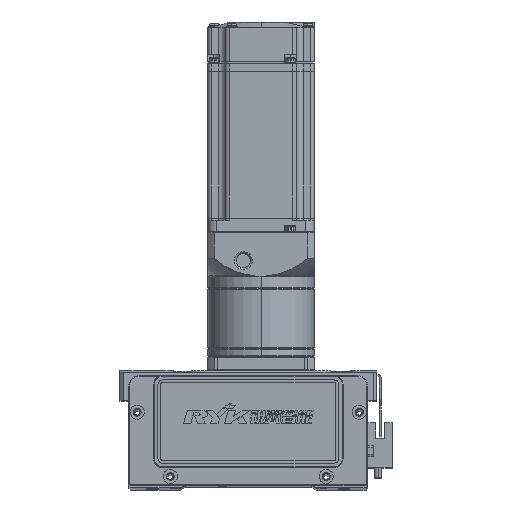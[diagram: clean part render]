
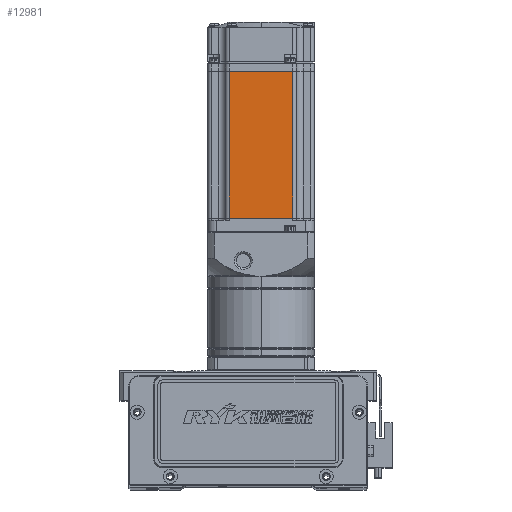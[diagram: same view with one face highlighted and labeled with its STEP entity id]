
A CAD part, top view. The second image highlights one B-rep face of the part: STEP entity #12981.
In plain terms, the highlighted planar face has unit normal (0, 0, 1).
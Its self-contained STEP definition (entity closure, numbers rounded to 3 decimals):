
#710 = VERTEX_POINT ( 'NONE', #28953 ) ;
#1090 = VERTEX_POINT ( 'NONE', #57534 ) ;
#2176 = VECTOR ( 'NONE', #58890, 1000. ) ;
#3819 = VERTEX_POINT ( 'NONE', #23769 ) ;
#6760 = LINE ( 'NONE', #21956, #12202 ) ;
#7178 = DIRECTION ( 'NONE',  ( 0., 0., 1. ) ) ;
#7392 = PLANE ( 'NONE',  #20274 ) ;
#10632 = ORIENTED_EDGE ( 'NONE', *, *, #11657, .T. ) ;
#11657 = EDGE_CURVE ( 'NONE', #710, #1090, #59503, .T. ) ;
#12202 = VECTOR ( 'NONE', #36523, 1000. ) ;
#12781 = EDGE_CURVE ( 'NONE', #33176, #3819, #15835, .T. ) ;
#12981 = ADVANCED_FACE ( 'NONE', ( #53944 ), #7392, .T. ) ;
#15835 = LINE ( 'NONE', #43916, #43834 ) ;
#20274 = AXIS2_PLACEMENT_3D ( 'NONE', #42119, #7178, #51486 ) ;
#21104 = ORIENTED_EDGE ( 'NONE', *, *, #12781, .F. ) ;
#21471 = EDGE_LOOP ( 'NONE', ( #21104, #61481, #10632, #54291 ) ) ;
#21956 = CARTESIAN_POINT ( 'NONE',  ( -6.5, 18., 30. ) ) ;
#22305 = CARTESIAN_POINT ( 'NONE',  ( -7.75, 18., 30. ) ) ;
#22619 = CARTESIAN_POINT ( 'NONE',  ( -90.45, 0., 30. ) ) ;
#23769 = CARTESIAN_POINT ( 'NONE',  ( -7.75, -18., 30. ) ) ;
#28953 = CARTESIAN_POINT ( 'NONE',  ( -90.45, 18., 30. ) ) ;
#31611 = EDGE_CURVE ( 'NONE', #33176, #710, #6760, .T. ) ;
#33176 = VERTEX_POINT ( 'NONE', #22305 ) ;
#36523 = DIRECTION ( 'NONE',  ( -1., 0., 0. ) ) ;
#42119 = CARTESIAN_POINT ( 'NONE',  ( -6.5, -25., 30. ) ) ;
#43280 = CARTESIAN_POINT ( 'NONE',  ( -6.5, -18., 30. ) ) ;
#43834 = VECTOR ( 'NONE', #54133, 1000. ) ;
#43916 = CARTESIAN_POINT ( 'NONE',  ( -7.75, 0., 30. ) ) ;
#49418 = VECTOR ( 'NONE', #61968, 1000. ) ;
#51486 = DIRECTION ( 'NONE',  ( 1., 0., 0. ) ) ;
#53944 = FACE_OUTER_BOUND ( 'NONE', #21471, .T. ) ;
#54133 = DIRECTION ( 'NONE',  ( 0., -1., 0. ) ) ;
#54291 = ORIENTED_EDGE ( 'NONE', *, *, #60989, .F. ) ;
#55803 = LINE ( 'NONE', #43280, #2176 ) ;
#57534 = CARTESIAN_POINT ( 'NONE',  ( -90.45, -18., 30. ) ) ;
#58890 = DIRECTION ( 'NONE',  ( -1., 0., 0. ) ) ;
#59503 = LINE ( 'NONE', #22619, #49418 ) ;
#60989 = EDGE_CURVE ( 'NONE', #3819, #1090, #55803, .T. ) ;
#61481 = ORIENTED_EDGE ( 'NONE', *, *, #31611, .T. ) ;
#61968 = DIRECTION ( 'NONE',  ( 0., -1., 0. ) ) ;
